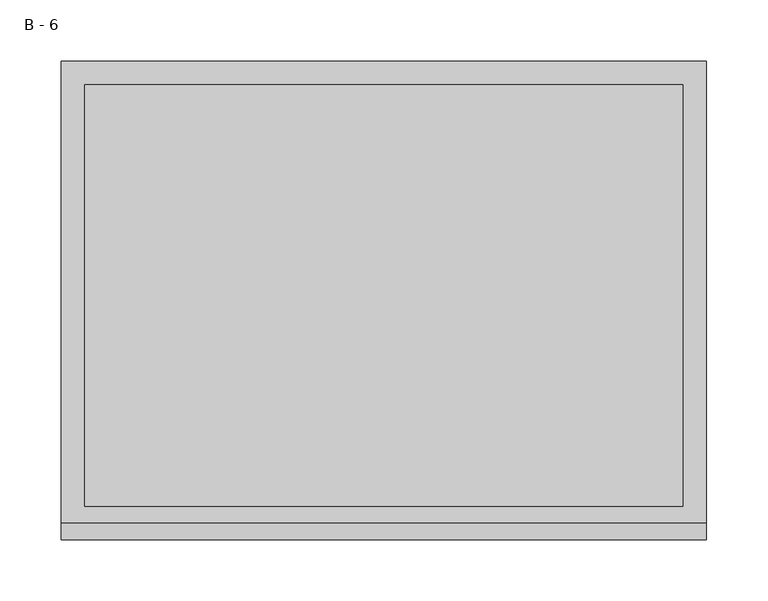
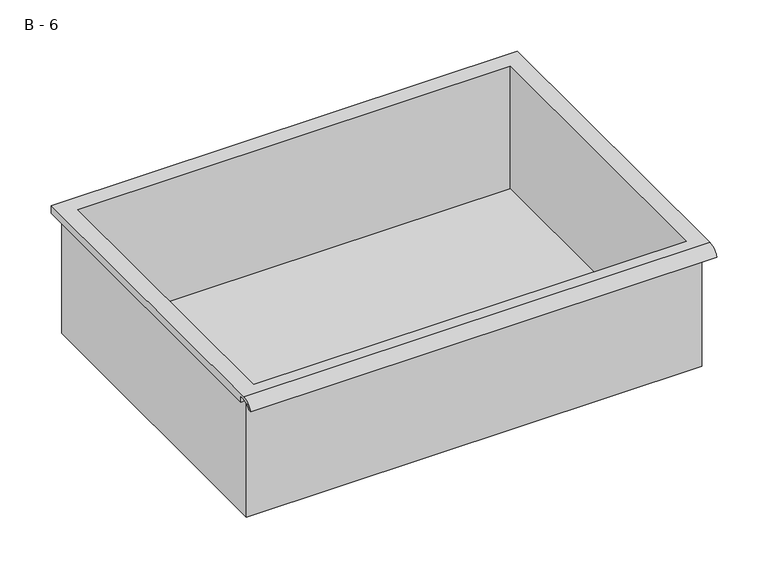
"""IFC4 building model written with IfcOpenShell, lengths in millimetres: furniture geometry, HermanMiller_CoStruc_CO207_Drawer : B - 6."""

from ifc_helpers import new_model, si_unit, frame, origin, place, context, project, spatial, polyline, circle_curve, source, transform, mapped, element, save
from ifc_brep_helpers import plane_surface, cylinder_surface, revolved_surface, advanced_brep


def b_6_6b6d093e(model_context):
    return source(origin(), model_context, "Body", "AdvancedBrep", [
        advanced_brep(
        [(-257.1076517, -176.2125, 1003.3), (257.2423483, -176.2125, 1003.3), (257.2423483, -176.2125, 1143.0), (263.5923483, -176.2125, 1143.0), (263.5923483, -176.2125, 1149.3071341), (-263.4576517, -176.2125, 1149.3071341), (-263.4576517, -176.2125, 1143.0), (-257.1076517, -176.2125, 1143.0), (257.2423483, 185.7375, 1003.3), (-257.1076517, 185.7375, 1003.3), (-257.1076517, 185.7375, 1143.0), (257.2423483, 185.7375, 1143.0), (263.5923483, -181.6070544, 1152.525), (263.5923483, 195.2625, 1152.525), (-263.4576517, 195.2625, 1152.525), (-263.4576517, -181.6070544, 1152.525), (244.5423483, -168.275, 1152.525), (-244.4076517, -168.275, 1152.525), (-244.4076517, 176.2125, 1152.525), (244.5423483, 176.2125, 1152.525), (263.5923483, -195.2625, 1143.0), (263.5923483, -191.8280601, 1143.0), (263.5923483, -180.4714815, 1149.3071341), (263.5923483, 195.2625, 1143.0), (-263.4576517, 195.2625, 1143.0), (-263.4576517, -180.4714815, 1149.3071341), (-263.4576517, -191.8280601, 1143.0), (-263.4576517, -195.2625, 1143.0), (-244.4076517, -168.275, 1006.3261719), (244.5423483, -168.275, 1006.3261719), (244.5423483, 176.2125, 1006.3261719), (-244.4076517, 176.2125, 1006.3261719)],
        [
            (0, 1),
            (1, 2),
            (2, 3),
            (3, 4),
            (4, 5),
            (5, 6),
            (6, 7),
            (7, 0),
            (8, 9),
            (9, 10),
            (10, 11),
            (11, 8),
            (0, 9),
            (8, 1),
            (11, 2),
            (12, 13),
            (13, 14),
            (14, 15),
            (15, 12),
            (16, 17),
            (17, 18),
            (18, 19),
            (19, 16),
            (7, 10),
            (12, 20, circle_curve(frame((263.5923483, -181.6070544, 1137.9739859), z_axis=(1.0, 0.0, 0.0), x_axis=(0.0, 1.0, 0.0)), 14.5510141)),
            (20, 21),
            (21, 22, circle_curve(frame((263.5923483, -181.6070544, 1137.9739859), z_axis=(-1.0, 0.0, 0.0), x_axis=(0.0, 1.0, 0.0)), 11.3898979)),
            (22, 4),
            (3, 23),
            (23, 13),
            (14, 24),
            (24, 6),
            (5, 25),
            (25, 26, circle_curve(frame((-263.4576517, -181.6070544, 1137.9739859), z_axis=(1.0, 0.0, 0.0), x_axis=(0.0, 1.0, 0.0)), 11.3898979)),
            (26, 27),
            (27, 15, circle_curve(frame((-263.4576517, -181.6070544, 1137.9739859), z_axis=(-1.0, 0.0, 0.0), x_axis=(0.0, 1.0, 0.0)), 14.5510141)),
            (27, 20),
            (26, 21),
            (25, 22),
            (24, 23),
            (28, 29),
            (29, 30),
            (30, 31),
            (31, 28),
            (28, 17),
            (16, 29),
            (19, 30),
            (18, 31),
        ],
        [
            plane_surface(frame((257.2423483, -176.2125, 1003.3), z_axis=(0.0, -1.0, 0.0), x_axis=(1.0, 0.0, 0.0))),
            plane_surface(frame((257.2423483, 185.7375, 1003.3), z_axis=(0.0, 1.0, 0.0), x_axis=(-1.0, 0.0, 0.0))),
            plane_surface(frame((-257.1076517, -176.2125, 1003.3), z_axis=(0.0, 0.0, -1.0), x_axis=(0.0, 1.0, 0.0))),
            plane_surface(frame((257.2423483, -176.2125, 1003.3), z_axis=(1.0, 0.0, 0.0), x_axis=(0.0, 1.0, 0.0))),
            plane_surface(frame((257.2423483, -176.2125, 1152.525), z_axis=(0.0, 0.0, 1.0), x_axis=(0.0, 1.0, 0.0))),
            plane_surface(frame((-257.1076517, -176.2125, 1152.525), z_axis=(-1.0, 0.0, 0.0), x_axis=(0.0, 1.0, 0.0))),
            plane_surface(frame((263.5923483, 195.2625, 1152.525), z_axis=(1.0, 0.0, 0.0), x_axis=(0.0, -1.0, 0.0))),
            plane_surface(frame((-263.4576517, 195.2625, 1152.525), z_axis=(-1.0, 0.0, 0.0), x_axis=(0.0, 1.0, 0.0))),
            cylinder_surface(frame((-263.4576517, -181.6070544, 1137.9739859), z_axis=(1.0, 0.0, 0.0), x_axis=(0.0, 1.0, 0.0)), 14.5510141),
            plane_surface(frame((263.5923483, -195.2625, 1143.0), z_axis=(0.0, -7.251821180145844e-12, -1.0), x_axis=(-1.0, 0.0, 0.0))),
            revolved_surface(polyline([(-263.4576517, -170.21715650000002, 1137.9739859), (263.59234829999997, -170.21715650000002, 1137.9739859)]), (-263.4576517, -181.6070544, 1137.9739859), (-1.0, 0.0, 0.0)),
            plane_surface(frame((263.5923483, -180.4714815, 1149.3071341), z_axis=(0.0, -1.7988537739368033e-11, -1.0), x_axis=(-1.0, 0.0, 0.0))),
            plane_surface(frame((263.5923483, -176.2125, 1143.0), z_axis=(0.0, 0.0, -1.0), x_axis=(-1.0, 0.0, 0.0))),
            plane_surface(frame((263.5923483, 195.2625, 1143.0), z_axis=(0.0, 1.0, 0.0), x_axis=(-1.0, 0.0, 0.0))),
            plane_surface(frame((244.5423483, -168.275, 1006.3261719), z_axis=(0.0, 0.0, 1.0), x_axis=(-1.0, 0.0, 0.0))),
            plane_surface(frame((-244.4076517, -168.275, 1152.525), z_axis=(0.0, 1.0, 0.0), x_axis=(0.0, 0.0, -1.0))),
            plane_surface(frame((244.5423483, -168.275, 1152.525), z_axis=(-1.0, 0.0, 0.0), x_axis=(0.0, 0.0, -1.0))),
            plane_surface(frame((244.5423483, 176.2125, 1152.525), z_axis=(0.0, -1.0, 0.0), x_axis=(0.0, 0.0, -1.0))),
            plane_surface(frame((-244.4076517, 176.2125, 1152.525), z_axis=(1.0, 0.0, 0.0), x_axis=(0.0, 0.0, -1.0))),
        ],
        [
            (0, [[1, 2, 3, 4, 5, 6, 7, 8]]),
            (1, [[9, 10, 11, 12]]),
            (2, [[-1, 13, -9, 14]]),
            (3, [[-14, -12, 15, -2]]),
            (4, [[16, 17, 18, 19], [20, 21, 22, 23]]),
            (5, [[-13, -8, 24, -10]]),
            (6, [[-16, 25, 26, 27, 28, -4, 29, 30]]),
            (7, [[31, 32, -6, 33, 34, 35, 36, -18]]),
            (8, [[-25, -19, -36, 37]]),
            (9, [[-26, -37, -35, 38]]),
            (10, [[-27, -38, -34, 39]]),
            (11, [[-28, -39, -33, -5]]),
            (12, [[-29, -3, -15, -11, -24, -7, -32, 40]]),
            (13, [[-30, -40, -31, -17]]),
            (14, [[41, 42, 43, 44]]),
            (15, [[-41, 45, -20, 46]]),
            (16, [[-42, -46, -23, 47]]),
            (17, [[-43, -47, -22, 48]]),
            (18, [[-44, -48, -21, -45]]),
        ],
    ),
    ])


if __name__ == "__main__":
    model = new_model("IFC4")
    model_context = context("Model", 3, world=origin())
    ifc_project = project(units=[si_unit("LENGTHUNIT", "METRE", prefix="MILLI")], contexts=[model_context])
    site = spatial("IfcSite", under=ifc_project)
    building = spatial("IfcBuilding", under=site)
    placement = place(None, origin())
    b_6_shape = b_6_6b6d093e(model_context)
    element("IfcFurniture", 1, ObjectType="HermanMiller_CoStruc_CO207_Drawer : B - 6", at=placement, inside=building, context=model_context, shape_type="MappedRepresentation", body=[
        mapped(b_6_shape, transform((0.0, 0.0, 0.0), x_axis=(1.0, 0.0, 0.0), y_axis=(0.0, 1.0, 0.0), z_axis=(0.0, 0.0, 1.0))),
    ])
    save(model, "model.ifc")
